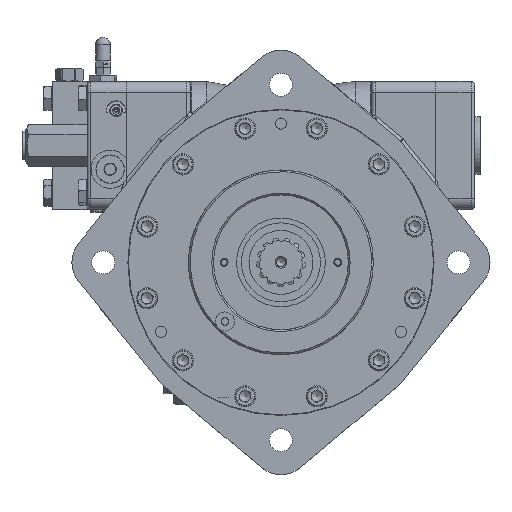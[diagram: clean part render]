
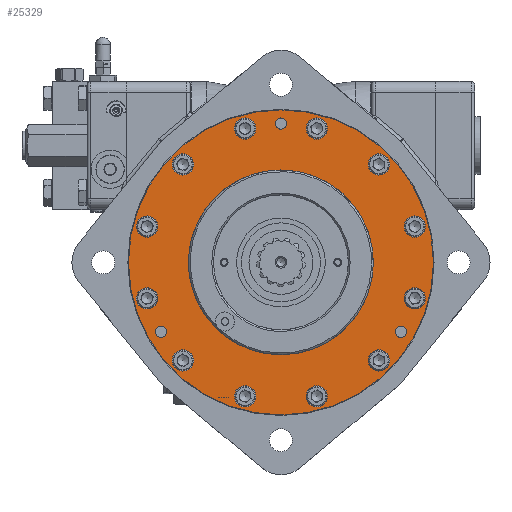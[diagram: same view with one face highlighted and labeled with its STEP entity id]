
A CAD part, top view. The second image highlights one B-rep face of the part: STEP entity #25329.
In plain terms, the highlighted planar face has unit normal (0, 0, 1).
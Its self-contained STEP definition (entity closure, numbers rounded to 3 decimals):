
#1983=FACE_BOUND($,#7643,.T.);
#1984=FACE_BOUND($,#7644,.T.);
#1985=FACE_BOUND($,#7645,.T.);
#1986=FACE_BOUND($,#7646,.T.);
#1987=FACE_BOUND($,#7647,.T.);
#1988=FACE_BOUND($,#7648,.T.);
#1989=FACE_BOUND($,#7649,.T.);
#1990=FACE_BOUND($,#7650,.T.);
#1991=FACE_BOUND($,#7651,.T.);
#1992=FACE_BOUND($,#7652,.T.);
#1993=FACE_BOUND($,#7653,.T.);
#1994=FACE_BOUND($,#7654,.T.);
#1995=FACE_BOUND($,#7655,.T.);
#1996=FACE_BOUND($,#7656,.T.);
#1997=FACE_BOUND($,#7657,.T.);
#1998=FACE_BOUND($,#7658,.T.);
#5656=FACE_OUTER_BOUND($,#7642,.T.);
#7642=EDGE_LOOP($,(#19544));
#7643=EDGE_LOOP($,(#19545));
#7644=EDGE_LOOP($,(#19546));
#7645=EDGE_LOOP($,(#19547));
#7646=EDGE_LOOP($,(#19548));
#7647=EDGE_LOOP($,(#19549));
#7648=EDGE_LOOP($,(#19550));
#7649=EDGE_LOOP($,(#19551));
#7650=EDGE_LOOP($,(#19552));
#7651=EDGE_LOOP($,(#19553));
#7652=EDGE_LOOP($,(#19554));
#7653=EDGE_LOOP($,(#19555));
#7654=EDGE_LOOP($,(#19556));
#7655=EDGE_LOOP($,(#19557));
#7656=EDGE_LOOP($,(#19558));
#7657=EDGE_LOOP($,(#19559));
#7658=EDGE_LOOP($,(#19560));
#10084=CIRCLE($,#27756,3.25);
#10085=CIRCLE($,#27758,5.365);
#10086=CIRCLE($,#27759,0.199);
#10087=CIRCLE($,#27760,0.199);
#10088=CIRCLE($,#27761,0.199);
#10089=CIRCLE($,#27762,0.375);
#10090=CIRCLE($,#27763,0.375);
#10091=CIRCLE($,#27764,0.375);
#10092=CIRCLE($,#27765,0.375);
#10093=CIRCLE($,#27766,0.375);
#10094=CIRCLE($,#27767,0.375);
#10095=CIRCLE($,#27768,0.375);
#10096=CIRCLE($,#27769,0.375);
#10097=CIRCLE($,#27770,0.375);
#10098=CIRCLE($,#27771,0.375);
#10099=CIRCLE($,#27772,0.375);
#10100=CIRCLE($,#27773,0.375);
#11887=VERTEX_POINT($,#48553);
#11888=VERTEX_POINT($,#48556);
#11889=VERTEX_POINT($,#48558);
#11890=VERTEX_POINT($,#48560);
#11891=VERTEX_POINT($,#48562);
#11892=VERTEX_POINT($,#48564);
#11893=VERTEX_POINT($,#48566);
#11894=VERTEX_POINT($,#48568);
#11895=VERTEX_POINT($,#48570);
#11896=VERTEX_POINT($,#48572);
#11897=VERTEX_POINT($,#48574);
#11898=VERTEX_POINT($,#48576);
#11899=VERTEX_POINT($,#48578);
#11900=VERTEX_POINT($,#48580);
#11901=VERTEX_POINT($,#48582);
#11902=VERTEX_POINT($,#48584);
#11903=VERTEX_POINT($,#48586);
#14769=EDGE_CURVE($,#11887,#11887,#10084,.T.);
#14770=EDGE_CURVE($,#11888,#11888,#10085,.T.);
#14771=EDGE_CURVE($,#11889,#11889,#10086,.T.);
#14772=EDGE_CURVE($,#11890,#11890,#10087,.T.);
#14773=EDGE_CURVE($,#11891,#11891,#10088,.T.);
#14774=EDGE_CURVE($,#11892,#11892,#10089,.T.);
#14775=EDGE_CURVE($,#11893,#11893,#10090,.T.);
#14776=EDGE_CURVE($,#11894,#11894,#10091,.T.);
#14777=EDGE_CURVE($,#11895,#11895,#10092,.T.);
#14778=EDGE_CURVE($,#11896,#11896,#10093,.T.);
#14779=EDGE_CURVE($,#11897,#11897,#10094,.T.);
#14780=EDGE_CURVE($,#11898,#11898,#10095,.T.);
#14781=EDGE_CURVE($,#11899,#11899,#10096,.T.);
#14782=EDGE_CURVE($,#11900,#11900,#10097,.T.);
#14783=EDGE_CURVE($,#11901,#11901,#10098,.T.);
#14784=EDGE_CURVE($,#11902,#11902,#10099,.T.);
#14785=EDGE_CURVE($,#11903,#11903,#10100,.T.);
#19544=ORIENTED_EDGE($,*,*,#14770,.F.);
#19545=ORIENTED_EDGE($,*,*,#14771,.F.);
#19546=ORIENTED_EDGE($,*,*,#14772,.F.);
#19547=ORIENTED_EDGE($,*,*,#14773,.F.);
#19548=ORIENTED_EDGE($,*,*,#14774,.F.);
#19549=ORIENTED_EDGE($,*,*,#14775,.F.);
#19550=ORIENTED_EDGE($,*,*,#14776,.F.);
#19551=ORIENTED_EDGE($,*,*,#14777,.F.);
#19552=ORIENTED_EDGE($,*,*,#14778,.F.);
#19553=ORIENTED_EDGE($,*,*,#14779,.F.);
#19554=ORIENTED_EDGE($,*,*,#14780,.F.);
#19555=ORIENTED_EDGE($,*,*,#14781,.F.);
#19556=ORIENTED_EDGE($,*,*,#14782,.F.);
#19557=ORIENTED_EDGE($,*,*,#14783,.F.);
#19558=ORIENTED_EDGE($,*,*,#14784,.F.);
#19559=ORIENTED_EDGE($,*,*,#14785,.F.);
#19560=ORIENTED_EDGE($,*,*,#14769,.F.);
#24113=PLANE($,#27757);
#25329=ADVANCED_FACE($,(#5656,#1983,#1984,#1985,#1986,#1987,#1988,#1989,
#1990,#1991,#1992,#1993,#1994,#1995,#1996,#1997,#1998),#24113,.F.);
#27756=AXIS2_PLACEMENT_3D($,#48554,#32426,#32427);
#27757=AXIS2_PLACEMENT_3D($,#48555,#32428,#32429);
#27758=AXIS2_PLACEMENT_3D($,#48557,#32430,#32431);
#27759=AXIS2_PLACEMENT_3D($,#48559,#32432,#32433);
#27760=AXIS2_PLACEMENT_3D($,#48561,#32434,#32435);
#27761=AXIS2_PLACEMENT_3D($,#48563,#32436,#32437);
#27762=AXIS2_PLACEMENT_3D($,#48565,#32438,#32439);
#27763=AXIS2_PLACEMENT_3D($,#48567,#32440,#32441);
#27764=AXIS2_PLACEMENT_3D($,#48569,#32442,#32443);
#27765=AXIS2_PLACEMENT_3D($,#48571,#32444,#32445);
#27766=AXIS2_PLACEMENT_3D($,#48573,#32446,#32447);
#27767=AXIS2_PLACEMENT_3D($,#48575,#32448,#32449);
#27768=AXIS2_PLACEMENT_3D($,#48577,#32450,#32451);
#27769=AXIS2_PLACEMENT_3D($,#48579,#32452,#32453);
#27770=AXIS2_PLACEMENT_3D($,#48581,#32454,#32455);
#27771=AXIS2_PLACEMENT_3D($,#48583,#32456,#32457);
#27772=AXIS2_PLACEMENT_3D($,#48585,#32458,#32459);
#27773=AXIS2_PLACEMENT_3D($,#48587,#32460,#32461);
#32426=DIRECTION('center_axis',(0.,0.,
1.));
#32427=DIRECTION('ref_axis',(0.,-1.,0.));
#32428=DIRECTION('center_axis',(0.,0.,
-1.));
#32429=DIRECTION('ref_axis',(0.,-1.,0.));
#32430=DIRECTION('center_axis',(0.,0.,
-1.));
#32431=DIRECTION('ref_axis',(0.,1.,0.));
#32432=DIRECTION('center_axis',(0.,0.,
1.));
#32433=DIRECTION('ref_axis',(-1.,0.,0.));
#32434=DIRECTION('center_axis',(0.,0.,
1.));
#32435=DIRECTION('ref_axis',(-1.,0.,0.));
#32436=DIRECTION('center_axis',(0.,0.,
1.));
#32437=DIRECTION('ref_axis',(-1.,0.,0.));
#32438=DIRECTION('center_axis',(0.,0.,
1.));
#32439=DIRECTION('ref_axis',(1.,0.,0.));
#32440=DIRECTION('center_axis',(0.,0.,
1.));
#32441=DIRECTION('ref_axis',(1.,0.,0.));
#32442=DIRECTION('center_axis',(0.,0.,
1.));
#32443=DIRECTION('ref_axis',(1.,0.,0.));
#32444=DIRECTION('center_axis',(0.,0.,
1.));
#32445=DIRECTION('ref_axis',(1.,0.,0.));
#32446=DIRECTION('center_axis',(0.,0.,
1.));
#32447=DIRECTION('ref_axis',(1.,0.,0.));
#32448=DIRECTION('center_axis',(0.,0.,
1.));
#32449=DIRECTION('ref_axis',(1.,0.,0.));
#32450=DIRECTION('center_axis',(0.,0.,
1.));
#32451=DIRECTION('ref_axis',(1.,0.,0.));
#32452=DIRECTION('center_axis',(0.,0.,
1.));
#32453=DIRECTION('ref_axis',(1.,0.,0.));
#32454=DIRECTION('center_axis',(0.,0.,
1.));
#32455=DIRECTION('ref_axis',(1.,0.,0.));
#32456=DIRECTION('center_axis',(0.,0.,
1.));
#32457=DIRECTION('ref_axis',(1.,0.,0.));
#32458=DIRECTION('center_axis',(0.,0.,
1.));
#32459=DIRECTION('ref_axis',(1.,0.,0.));
#32460=DIRECTION('center_axis',(0.,0.,
1.));
#32461=DIRECTION('ref_axis',(1.,0.,0.));
#48553=CARTESIAN_POINT('',(0.,-3.25,0.001));
#48554=CARTESIAN_POINT('Origin',(0.,0.,
0.001));
#48555=CARTESIAN_POINT('Origin',(0.,-4.75,0.001));
#48556=CARTESIAN_POINT('',(0.,5.365,0.001));
#48557=CARTESIAN_POINT('Origin',(0.,0.,
0.001));
#48558=CARTESIAN_POINT('',(-4.419,-2.44,0.001));
#48559=CARTESIAN_POINT('Origin',(-4.22,-2.44,0.001));
#48560=CARTESIAN_POINT('',(4.021,-2.44,0.001));
#48561=CARTESIAN_POINT('Origin',(4.22,-2.44,0.001));
#48562=CARTESIAN_POINT('',(-0.199,4.88,0.001));
#48563=CARTESIAN_POINT('Origin',(0.,4.88,0.001));
#48564=CARTESIAN_POINT('',(-5.084,1.262,0.001));
#48565=CARTESIAN_POINT('Origin',(-4.709,1.262,0.001));
#48566=CARTESIAN_POINT('',(-1.637,4.709,0.001));
#48567=CARTESIAN_POINT('Origin',(-1.262,4.709,0.001));
#48568=CARTESIAN_POINT('',(0.887,4.709,0.001));
#48569=CARTESIAN_POINT('Origin',(1.262,4.709,0.001));
#48570=CARTESIAN_POINT('',(-3.822,3.447,0.001));
#48571=CARTESIAN_POINT('Origin',(-3.447,3.447,0.001));
#48572=CARTESIAN_POINT('',(3.072,3.447,0.001));
#48573=CARTESIAN_POINT('Origin',(3.447,3.447,0.001));
#48574=CARTESIAN_POINT('',(0.887,-4.709,0.001));
#48575=CARTESIAN_POINT('Origin',(1.262,-4.709,0.001));
#48576=CARTESIAN_POINT('',(-1.637,-4.709,0.001));
#48577=CARTESIAN_POINT('Origin',(-1.262,-4.709,0.001));
#48578=CARTESIAN_POINT('',(3.072,-3.447,0.001));
#48579=CARTESIAN_POINT('Origin',(3.447,-3.447,0.001));
#48580=CARTESIAN_POINT('',(4.334,-1.262,0.001));
#48581=CARTESIAN_POINT('Origin',(4.709,-1.262,0.001));
#48582=CARTESIAN_POINT('',(-3.822,-3.447,0.001));
#48583=CARTESIAN_POINT('Origin',(-3.447,-3.447,0.001));
#48584=CARTESIAN_POINT('',(-5.084,-1.262,0.001));
#48585=CARTESIAN_POINT('Origin',(-4.709,-1.262,0.001));
#48586=CARTESIAN_POINT('',(4.334,1.262,0.001));
#48587=CARTESIAN_POINT('Origin',(4.709,1.262,0.001));
